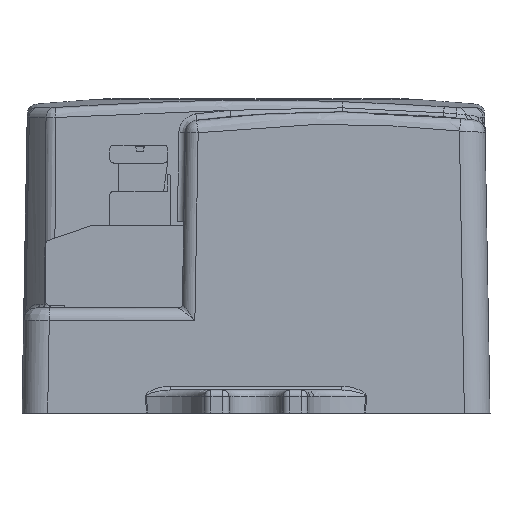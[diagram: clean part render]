
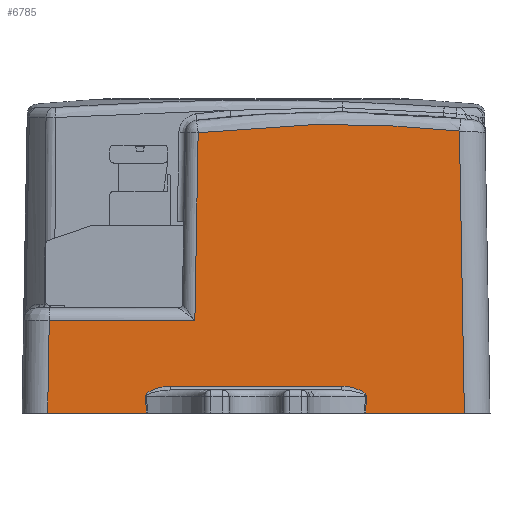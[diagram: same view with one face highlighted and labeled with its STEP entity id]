
A CAD part, left-side view. The second image highlights one B-rep face of the part: STEP entity #6785.
In plain terms, the highlighted planar face has unit normal (-1, 0, 0.018).
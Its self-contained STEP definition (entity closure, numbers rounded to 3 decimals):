
#1003=DIRECTION('',(0.,-1.,0.));
#1004=VECTOR('',#1003,7.707);
#1005=CARTESIAN_POINT('',(-29.,16.25,
0.));
#1006=LINE('',#1005,#1004);
#1061=DIRECTION('',(0.,-1.,0.));
#1062=VECTOR('',#1061,7.707);
#1063=CARTESIAN_POINT('',(-29.,-8.544,
0.));
#1064=LINE('',#1063,#1062);
#1334=DIRECTION('',(0.017,-0.017,1.));
#1335=VECTOR('',#1334,14.654);
#1336=CARTESIAN_POINT('',(-28.874,4.767,7.217));
#1337=LINE('',#1336,#1335);
#1338=CARTESIAN_POINT('',(-28.618,4.512,21.867));
#1339=CARTESIAN_POINT('',(-28.604,-2.246,
22.687));
#1340=CARTESIAN_POINT('',(-28.603,-9.099,
22.731));
#1341=CARTESIAN_POINT('',(-28.616,-15.866,
21.999));
#1343=DIRECTION('',(-0.017,-0.017,-1.));
#1344=VECTOR('',#1343,22.005);
#1345=CARTESIAN_POINT('',(-28.616,-15.866,
21.999));
#1346=LINE('',#1345,#1344);
#1347=CARTESIAN_POINT('',(-29.,-8.544,
0.));
#1348=CARTESIAN_POINT('',(-28.992,-8.569,
0.432));
#1349=CARTESIAN_POINT('',(-28.985,-8.594,
0.863));
#1350=CARTESIAN_POINT('',(-28.977,-8.621,
1.295));
#1352=CARTESIAN_POINT('',(-28.977,-8.621,
1.295));
#1353=CARTESIAN_POINT('',(-28.977,-8.622,
1.31));
#1354=CARTESIAN_POINT('',(-28.977,-8.621,
1.342));
#1355=CARTESIAN_POINT('',(-28.976,-8.606,
1.395));
#1356=CARTESIAN_POINT('',(-28.975,-8.578,
1.449));
#1357=CARTESIAN_POINT('',(-28.974,-8.537,
1.504));
#1358=CARTESIAN_POINT('',(-28.973,-8.482,
1.558));
#1359=CARTESIAN_POINT('',(-28.972,-8.416,
1.612));
#1360=CARTESIAN_POINT('',(-28.971,-8.337,
1.665));
#1361=CARTESIAN_POINT('',(-28.97,-8.246,
1.718));
#1362=CARTESIAN_POINT('',(-28.969,-8.143,
1.77));
#1363=CARTESIAN_POINT('',(-28.968,-8.027,
1.823));
#1364=CARTESIAN_POINT('',(-28.967,-7.896,
1.874));
#1365=CARTESIAN_POINT('',(-28.966,-7.75,
1.925));
#1366=CARTESIAN_POINT('',(-28.966,-7.586,
1.973));
#1367=CARTESIAN_POINT('',(-28.965,-7.402,
2.018));
#1368=CARTESIAN_POINT('',(-28.964,-7.195,
2.057));
#1369=CARTESIAN_POINT('',(-28.964,-6.963,
2.086));
#1370=CARTESIAN_POINT('',(-28.963,-6.786,
2.095));
#1371=CARTESIAN_POINT('',(-28.963,-6.693,
2.095));
#1373=CARTESIAN_POINT('',(-28.963,6.693,2.095));
#1374=CARTESIAN_POINT('',(-28.963,6.786,2.095));
#1375=CARTESIAN_POINT('',(-28.964,6.962,2.086));
#1376=CARTESIAN_POINT('',(-28.964,7.194,2.057));
#1377=CARTESIAN_POINT('',(-28.965,7.399,2.018));
#1378=CARTESIAN_POINT('',(-28.966,7.583,1.974));
#1379=CARTESIAN_POINT('',(-28.966,7.747,1.925));
#1380=CARTESIAN_POINT('',(-28.967,7.894,1.875));
#1381=CARTESIAN_POINT('',(-28.968,8.025,1.823));
#1382=CARTESIAN_POINT('',(-28.969,8.142,1.771));
#1383=CARTESIAN_POINT('',(-28.97,8.245,1.718));
#1384=CARTESIAN_POINT('',(-28.971,8.336,1.666));
#1385=CARTESIAN_POINT('',(-28.972,8.415,1.612));
#1386=CARTESIAN_POINT('',(-28.973,8.481,1.559));
#1387=CARTESIAN_POINT('',(-28.974,8.536,1.505));
#1388=CARTESIAN_POINT('',(-28.975,8.578,1.45));
#1389=CARTESIAN_POINT('',(-28.976,8.606,1.395));
#1390=CARTESIAN_POINT('',(-28.977,8.621,1.343));
#1391=CARTESIAN_POINT('',(-28.977,8.622,1.31));
#1392=CARTESIAN_POINT('',(-28.977,8.621,1.295));
#1394=CARTESIAN_POINT('',(-28.977,8.621,1.295));
#1395=CARTESIAN_POINT('',(-28.985,8.594,
0.863));
#1396=CARTESIAN_POINT('',(-28.992,8.569,
0.432));
#1397=CARTESIAN_POINT('',(-29.,8.544,
0.));
#1399=DIRECTION('',(0.017,-0.017,1.));
#1400=VECTOR('',#1399,7.22);
#1401=CARTESIAN_POINT('',(-29.,16.25,
0.));
#1402=LINE('',#1401,#1400);
#1403=DIRECTION('',(0.,1.,0.));
#1404=VECTOR('',#1403,11.357);
#1405=CARTESIAN_POINT('',(-28.874,4.767,7.217));
#1406=LINE('',#1405,#1404);
#1510=DIRECTION('',(0.,-1.,0.));
#1511=VECTOR('',#1510,13.386);
#1512=CARTESIAN_POINT('',(-28.963,6.693,2.095));
#1513=LINE('',#1512,#1511);
#4425=CARTESIAN_POINT('',(-28.963,6.693,2.095));
#4426=CARTESIAN_POINT('',(-28.963,-6.693,
2.095));
#4427=VERTEX_POINT('',#4425);
#4428=VERTEX_POINT('',#4426);
#4429=CARTESIAN_POINT('',(-28.874,4.767,7.217));
#4430=CARTESIAN_POINT('',(-28.874,16.124,7.217));
#4431=VERTEX_POINT('',#4429);
#4432=VERTEX_POINT('',#4430);
#4433=CARTESIAN_POINT('',(-28.618,4.512,21.867));
#4434=VERTEX_POINT('',#4433);
#4435=VERTEX_POINT('',#1341);
#4436=CARTESIAN_POINT('',(-29.,-16.25,
0.));
#4437=VERTEX_POINT('',#4436);
#4438=CARTESIAN_POINT('',(-29.,-8.544,
0.));
#4439=VERTEX_POINT('',#4438);
#4440=VERTEX_POINT('',#1350);
#4441=VERTEX_POINT('',#1392);
#4442=VERTEX_POINT('',#1397);
#4443=CARTESIAN_POINT('',(-29.,16.25,
0.));
#4444=VERTEX_POINT('',#4443);
#6759=CARTESIAN_POINT('',(-29.,20.559,0.));
#6760=DIRECTION('',(-1.,0.,0.017));
#6761=DIRECTION('',(0.,1.,0.));
#6762=AXIS2_PLACEMENT_3D('',#6759,#6760,#6761);
#6763=PLANE('',#6762);
#6765=ORIENTED_EDGE('',*,*,#6764,.F.);
#6767=ORIENTED_EDGE('',*,*,#6766,.T.);
#6768=ORIENTED_EDGE('',*,*,#6691,.T.);
#6769=ORIENTED_EDGE('',*,*,#6754,.T.);
#6770=ORIENTED_EDGE('',*,*,#6401,.F.);
#6772=ORIENTED_EDGE('',*,*,#6771,.T.);
#6774=ORIENTED_EDGE('',*,*,#6773,.T.);
#6776=ORIENTED_EDGE('',*,*,#6775,.F.);
#6778=ORIENTED_EDGE('',*,*,#6777,.T.);
#6780=ORIENTED_EDGE('',*,*,#6779,.T.);
#6781=ORIENTED_EDGE('',*,*,#6371,.F.);
#6782=ORIENTED_EDGE('',*,*,#6461,.T.);
#6783=EDGE_LOOP('',(#6765,#6767,#6768,#6769,#6770,#6772,#6774,#6776,#6778,#6780,
#6781,#6782));
#6784=FACE_OUTER_BOUND('',#6783,.F.);
#1342=B_SPLINE_CURVE_WITH_KNOTS('',3,(#1338,#1339,#1340,#1341),.UNSPECIFIED.,
.F.,.F.,(4,4),(0.,1.),.UNSPECIFIED.);
#1351=B_SPLINE_CURVE_WITH_KNOTS('',3,(#1347,#1348,#1349,#1350),.UNSPECIFIED.,
.F.,.F.,(4,4),(0.,1.),.UNSPECIFIED.);
#1372=B_SPLINE_CURVE_WITH_KNOTS('',3,(#1352,#1353,#1354,#1355,#1356,#1357,#1358,
#1359,#1360,#1361,#1362,#1363,#1364,#1365,#1366,#1367,#1368,#1369,#1370,#1371),
.UNSPECIFIED.,.F.,.F.,(4,1,1,1,1,1,1,1,1,1,1,1,1,1,1,1,1,4),(0.,
0.059,0.118,0.176,0.235,
0.294,0.353,0.412,0.471,
0.529,0.588,0.647,0.706,
0.765,0.824,0.882,0.941,1.),
.UNSPECIFIED.);
#1393=B_SPLINE_CURVE_WITH_KNOTS('',3,(#1373,#1374,#1375,#1376,#1377,#1378,#1379,
#1380,#1381,#1382,#1383,#1384,#1385,#1386,#1387,#1388,#1389,#1390,#1391,#1392),
.UNSPECIFIED.,.F.,.F.,(4,1,1,1,1,1,1,1,1,1,1,1,1,1,1,1,1,4),(0.,
0.059,0.118,0.176,0.235,
0.294,0.353,0.412,0.471,
0.529,0.588,0.647,0.706,
0.765,0.824,0.882,0.941,1.),
.UNSPECIFIED.);
#1398=B_SPLINE_CURVE_WITH_KNOTS('',3,(#1394,#1395,#1396,#1397),.UNSPECIFIED.,
.F.,.F.,(4,4),(0.,1.),.UNSPECIFIED.);
#6371=EDGE_CURVE('',#4444,#4442,#1006,.T.);
#6401=EDGE_CURVE('',#4439,#4437,#1064,.T.);
#6461=EDGE_CURVE('',#4444,#4432,#1402,.T.);
#6691=EDGE_CURVE('',#4434,#4435,#1342,.T.);
#6754=EDGE_CURVE('',#4435,#4437,#1346,.T.);
#6764=EDGE_CURVE('',#4431,#4432,#1406,.T.);
#6766=EDGE_CURVE('',#4431,#4434,#1337,.T.);
#6771=EDGE_CURVE('',#4439,#4440,#1351,.T.);
#6773=EDGE_CURVE('',#4440,#4428,#1372,.T.);
#6775=EDGE_CURVE('',#4427,#4428,#1513,.T.);
#6777=EDGE_CURVE('',#4427,#4441,#1393,.T.);
#6779=EDGE_CURVE('',#4441,#4442,#1398,.T.);
#6785=ADVANCED_FACE('',(#6784),#6763,.T.);
